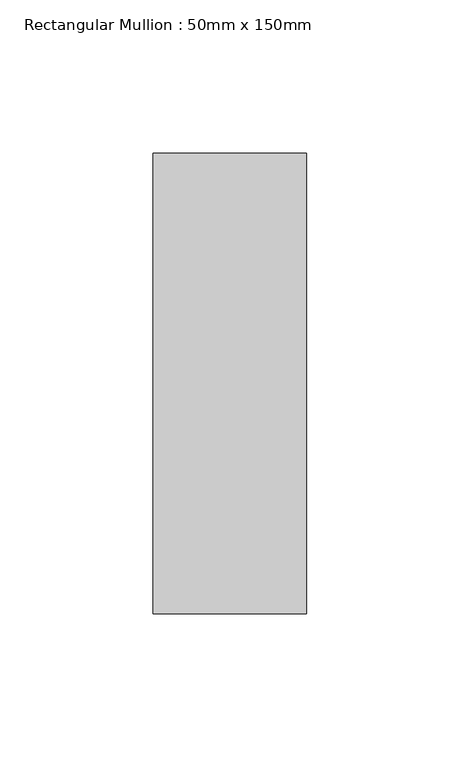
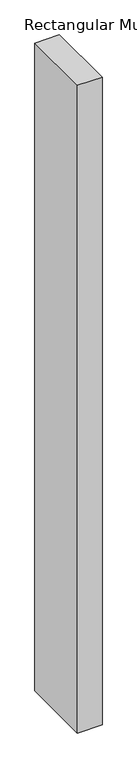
"""IFC4 building model written with IfcOpenShell, lengths in millimetres: member geometry, Rectangular Mullion : 50mm x 150mm."""

from ifc_helpers import new_model, si_unit, frame, origin, place, context, project, spatial, polyline, outline, extrude, source, transform, mapped, element, save


def rectangular_mullion_50mm_x_150mm_bba830a1(model_context):
    return source(origin(), model_context, "Body", "SweptSolid", [
        extrude(outline(polyline([(0.0, 75.0), (0.0, -75.0), (-50.0, -75.0), (-50.0, 75.0), (0.0, 75.0)])), frame((0.0, 0.0, -1392.4732205), z_axis=(0.0, 0.0, 1.0), x_axis=(1.0, 0.0, 0.0)), (0.0, 0.0, 1.0), 1392.4732205),
    ])


if __name__ == "__main__":
    model = new_model("IFC4")
    model_context = context("Model", 3, world=origin())
    ifc_project = project(units=[si_unit("LENGTHUNIT", "METRE", prefix="MILLI")], contexts=[model_context])
    site = spatial("IfcSite", under=ifc_project)
    building = spatial("IfcBuilding", under=site)
    placement = place(None, origin())
    rectangular_mullion_50mm_x_150mm_shape = rectangular_mullion_50mm_x_150mm_bba830a1(model_context)
    element("IfcMember", 1, ObjectType="Rectangular Mullion : 50mm x 150mm", at=placement, inside=building, context=model_context, shape_type="MappedRepresentation", body=[
        mapped(rectangular_mullion_50mm_x_150mm_shape, transform((0.0, 0.0, 0.0), x_axis=(1.0, 0.0, 0.0), y_axis=(0.0, 1.0, 0.0), z_axis=(0.0, 0.0, 1.0))),
    ])
    save(model, "model.ifc")
